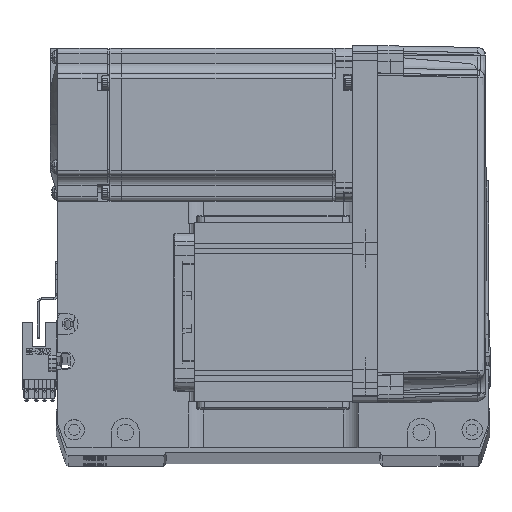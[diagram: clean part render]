
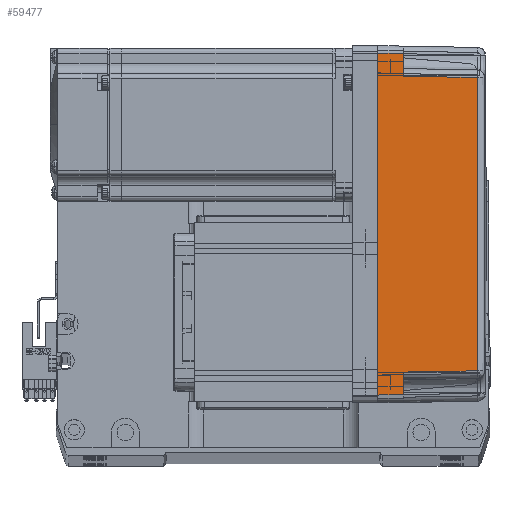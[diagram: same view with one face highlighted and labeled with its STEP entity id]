
A CAD part, top view. The second image highlights one B-rep face of the part: STEP entity #59477.
In plain terms, the highlighted planar face has unit normal (0.018, 0, 1) as drawn and (0, -1, 0.017) by its records, which use the part's own axes.
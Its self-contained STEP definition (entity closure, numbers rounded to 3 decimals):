
#200 = DIRECTION ( 'NONE',  ( -1., 0., 0. ) ) ;
#353 = VERTEX_POINT ( 'NONE', #32471 ) ;
#408 = VERTEX_POINT ( 'NONE', #47772 ) ;
#1173 = VECTOR ( 'NONE', #55137, 1000. ) ;
#3833 = EDGE_CURVE ( 'NONE', #5073, #24310, #10293, .T. ) ;
#4328 = ORIENTED_EDGE ( 'NONE', *, *, #27377, .T. ) ;
#5073 = VERTEX_POINT ( 'NONE', #57644 ) ;
#6445 = ORIENTED_EDGE ( 'NONE', *, *, #48741, .F. ) ;
#7141 = CARTESIAN_POINT ( 'NONE',  ( 70., -36., 0. ) ) ;
#8635 = B_SPLINE_CURVE_WITH_KNOTS ( 'NONE', 3,
 ( #61768, #45751, #30072, #35359 ),
 .UNSPECIFIED., .F., .F.,
 ( 4, 4 ),
 ( 0., 1. ),
 .UNSPECIFIED. ) ;
#9175 = VECTOR ( 'NONE', #46172, 1000. ) ;
#9590 = CARTESIAN_POINT ( 'NONE',  ( 70., -35.825, 10. ) ) ;
#10252 = CARTESIAN_POINT ( 'NONE',  ( 58., -35.825, 10. ) ) ;
#10293 = LINE ( 'NONE', #33861, #1173 ) ;
#10593 = CARTESIAN_POINT ( 'NONE',  ( -57.495, -35.32, 38.985 ) ) ;
#10891 = ORIENTED_EDGE ( 'NONE', *, *, #3833, .F. ) ;
#12280 = EDGE_CURVE ( 'NONE', #40000, #32653, #54710, .T. ) ;
#12450 = DIRECTION ( 'NONE',  ( 0., -0.017, -1. ) ) ;
#13171 = LINE ( 'NONE', #17438, #64550 ) ;
#14172 = CARTESIAN_POINT ( 'NONE',  ( -66.826, -35.825, 10. ) ) ;
#17438 = CARTESIAN_POINT ( 'NONE',  ( 58., -35.825, 10. ) ) ;
#20601 = ORIENTED_EDGE ( 'NONE', *, *, #65485, .T. ) ;
#20780 = ORIENTED_EDGE ( 'NONE', *, *, #64665, .T. ) ;
#22199 = LINE ( 'NONE', #9590, #68496 ) ;
#24310 = VERTEX_POINT ( 'NONE', #14172 ) ;
#26987 = VECTOR ( 'NONE', #200, 1000. ) ;
#27377 = EDGE_CURVE ( 'NONE', #32653, #32301, #39462, .T. ) ;
#28732 = CARTESIAN_POINT ( 'NONE',  ( 66.826, -35.825, 10. ) ) ;
#29120 = CARTESIAN_POINT ( 'NONE',  ( 70., -35.825, 10. ) ) ;
#30072 = CARTESIAN_POINT ( 'NONE',  ( -19.165, -35.316, 39.181 ) ) ;
#32301 = VERTEX_POINT ( 'NONE', #10252 ) ;
#32471 = CARTESIAN_POINT ( 'NONE',  ( 57.495, -35.32, 38.985 ) ) ;
#32653 = VERTEX_POINT ( 'NONE', #28732 ) ;
#33861 = CARTESIAN_POINT ( 'NONE',  ( -66.959, -35.958, 2.39 ) ) ;
#35359 = CARTESIAN_POINT ( 'NONE',  ( -57.495, -35.32, 38.985 ) ) ;
#36993 = CARTESIAN_POINT ( 'NONE',  ( 0., -36., 0. ) ) ;
#37145 = DIRECTION ( 'NONE',  ( -0.017, -0.017, -1. ) ) ;
#37224 = VERTEX_POINT ( 'NONE', #48695 ) ;
#37674 = ORIENTED_EDGE ( 'NONE', *, *, #60386, .T. ) ;
#38434 = DIRECTION ( 'NONE',  ( -0.017, 0.017, 1. ) ) ;
#39462 = LINE ( 'NONE', #29120, #66865 ) ;
#40000 = VERTEX_POINT ( 'NONE', #55814 ) ;
#41888 = VECTOR ( 'NONE', #37145, 1000. ) ;
#43520 = LINE ( 'NONE', #10593, #41888 ) ;
#44787 = AXIS2_PLACEMENT_3D ( 'NONE', #7141, #49489, #12450 ) ;
#45751 = CARTESIAN_POINT ( 'NONE',  ( 19.165, -35.316, 39.181 ) ) ;
#46172 = DIRECTION ( 'NONE',  ( -0.017, 0.017, 1. ) ) ;
#46954 = ORIENTED_EDGE ( 'NONE', *, *, #47135, .T. ) ;
#47135 = EDGE_CURVE ( 'NONE', #353, #408, #8635, .T. ) ;
#47506 = DIRECTION ( 'NONE',  ( -1., 0., 0. ) ) ;
#47772 = CARTESIAN_POINT ( 'NONE',  ( -57.495, -35.32, 38.985 ) ) ;
#48695 = CARTESIAN_POINT ( 'NONE',  ( -58., -35.825, 10. ) ) ;
#48741 = EDGE_CURVE ( 'NONE', #40000, #5073, #63452, .T. ) ;
#49489 = DIRECTION ( 'NONE',  ( 0., -1., 0.017 ) ) ;
#53470 = EDGE_LOOP ( 'NONE', ( #59499, #4328, #20780, #46954, #37674, #20601, #10891, #6445 ) ) ;
#54710 = LINE ( 'NONE', #61454, #9175 ) ;
#55137 = DIRECTION ( 'NONE',  ( 0.017, 0.017, 1. ) ) ;
#55814 = CARTESIAN_POINT ( 'NONE',  ( 67., -36., 0. ) ) ;
#56874 = FACE_OUTER_BOUND ( 'NONE', #53470, .T. ) ;
#57644 = CARTESIAN_POINT ( 'NONE',  ( -67., -36., 0. ) ) ;
#59477 = ADVANCED_FACE ( 'NONE', ( #56874 ), #65444, .T. ) ;
#59499 = ORIENTED_EDGE ( 'NONE', *, *, #12280, .T. ) ;
#60386 = EDGE_CURVE ( 'NONE', #408, #37224, #43520, .T. ) ;
#60552 = DIRECTION ( 'NONE',  ( -1., 0., 0. ) ) ;
#61454 = CARTESIAN_POINT ( 'NONE',  ( 67., -36., 0. ) ) ;
#61768 = CARTESIAN_POINT ( 'NONE',  ( 57.495, -35.32, 38.985 ) ) ;
#63452 = LINE ( 'NONE', #36993, #26987 ) ;
#64550 = VECTOR ( 'NONE', #38434, 1000. ) ;
#64665 = EDGE_CURVE ( 'NONE', #32301, #353, #13171, .T. ) ;
#65444 = PLANE ( 'NONE',  #44787 ) ;
#65485 = EDGE_CURVE ( 'NONE', #37224, #24310, #22199, .T. ) ;
#66865 = VECTOR ( 'NONE', #60552, 1000. ) ;
#68496 = VECTOR ( 'NONE', #47506, 1000. ) ;
